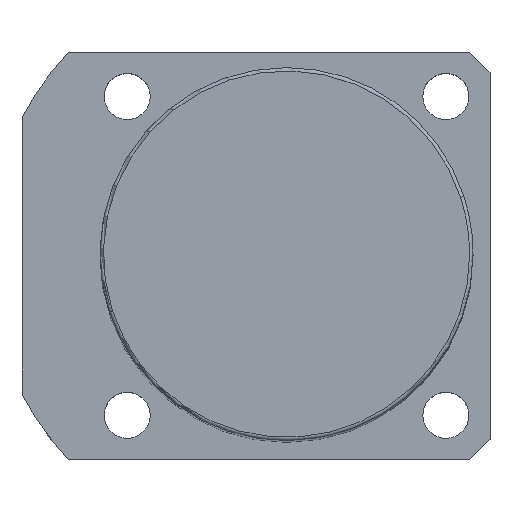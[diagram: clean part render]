
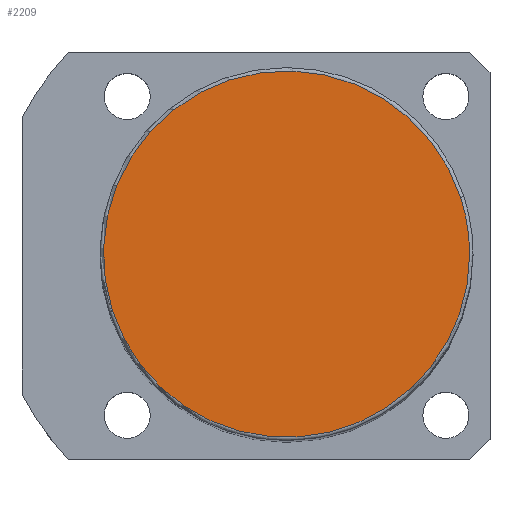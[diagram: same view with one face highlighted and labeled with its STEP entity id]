
A CAD part, top view. The second image highlights one B-rep face of the part: STEP entity #2209.
In plain terms, the highlighted planar face has unit normal (0, 0, 1).
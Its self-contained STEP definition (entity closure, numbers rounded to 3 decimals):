
#2175=CARTESIAN_POINT('',(27.0,0.0,161.0));
#2176=VERTEX_POINT('',#2175);
#2177=CARTESIAN_POINT('',(25.679,8.343,161.0));
#2178=VERTEX_POINT('',#2177);
#2179=CARTESIAN_POINT('',(0.0,0.0,161.0));
#2180=DIRECTION('',(0.0,0.0,1.0));
#2181=DIRECTION('',(1.0,0.0,0.0));
#2182=AXIS2_PLACEMENT_3D('',#2179,#2180,#2181);
#2183=CIRCLE('',#2182,27.0);
#2184=EDGE_CURVE('no 2187',#2176,#2178,#2183,.T.);
#2185=ORIENTED_EDGE('',*,*,#2184,.T.);
#2186=CARTESIAN_POINT('',(-25.679,-8.343,161.0));
#2187=VERTEX_POINT('',#2186);
#2188=CARTESIAN_POINT('',(0.0,0.0,161.0));
#2189=DIRECTION('',(0.0,0.0,1.0));
#2190=DIRECTION('',(1.0,0.0,0.0));
#2191=AXIS2_PLACEMENT_3D('',#2188,#2189,#2190);
#2192=CIRCLE('',#2191,27.0);
#2193=EDGE_CURVE('no 2193',#2178,#2187,#2192,.T.);
#2194=ORIENTED_EDGE('',*,*,#2193,.T.);
#2195=CARTESIAN_POINT('',(0.0,0.0,161.0));
#2196=DIRECTION('',(0.0,0.0,1.0));
#2197=DIRECTION('',(1.0,0.0,0.0));
#2198=AXIS2_PLACEMENT_3D('',#2195,#2196,#2197);
#2199=CIRCLE('',#2198,27.0);
#2200=EDGE_CURVE('no 2197',#2187,#2176,#2199,.T.);
#2201=ORIENTED_EDGE('',*,*,#2200,.T.);
#2202=EDGE_LOOP('',(#2185,#2194,#2201));
#2203=FACE_OUTER_BOUND('',#2202,.T.);
#2204=CARTESIAN_POINT('',(0.0,0.0,161.0));
#2205=DIRECTION('',(0.0,0.0,1.0));
#2206=DIRECTION('',(1.0,0.0,0.0));
#2207=AXIS2_PLACEMENT_3D('',#2204,#2205,#2206);
#2208=PLANE('',#2207);
#2209=ADVANCED_FACE('no 2178',(#2203),#2208,.T.);
